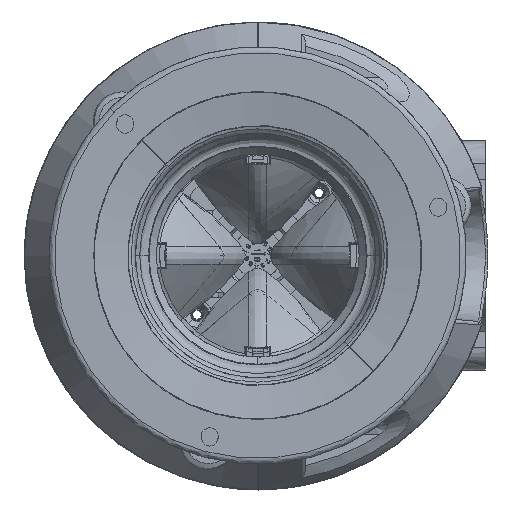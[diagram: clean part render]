
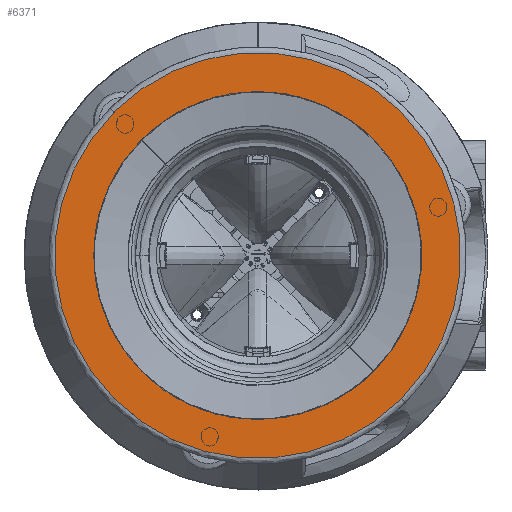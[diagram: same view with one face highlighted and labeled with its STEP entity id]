
A CAD part, top view. The second image highlights one B-rep face of the part: STEP entity #6371.
In plain terms, the highlighted planar face has unit normal (0, 0, 1) as drawn and (0, 1, 0) by its records, which use the part's own axes.
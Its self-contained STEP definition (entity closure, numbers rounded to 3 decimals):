
#518=TRIMMED_CURVE($,#1332,(#120751),(#120752),.T.,.CARTESIAN.);
#519=TRIMMED_CURVE($,#1333,(#120754),(#120755),.T.,.CARTESIAN.);
#523=TRIMMED_CURVE($,#1337,(#120766),(#120767),.T.,.CARTESIAN.);
#524=TRIMMED_CURVE($,#1338,(#120769),(#120770),.T.,.CARTESIAN.);
#551=TRIMMED_CURVE($,#1365,(#120866),(#120867),.T.,.CARTESIAN.);
#552=TRIMMED_CURVE($,#1366,(#120869),(#120870),.T.,.CARTESIAN.);
#555=TRIMMED_CURVE($,#1369,(#120878),(#120879),.T.,.CARTESIAN.);
#556=TRIMMED_CURVE($,#1370,(#120881),(#120882),.T.,.CARTESIAN.);
#1332=CIRCLE('',#59503,46.);
#1333=CIRCLE('',#59504,46.);
#1337=CIRCLE('',#59508,46.);
#1338=CIRCLE('',#59509,46.);
#1365=CIRCLE('',#59536,70.5);
#1366=CIRCLE('',#59537,70.5);
#1369=CIRCLE('',#59540,70.5);
#1370=CIRCLE('',#59541,70.5);
#6371=ADVANCED_FACE('',(#9831,#7230),#55824,.T.);
#7230=FACE_BOUND('',#13272,.T.);
#9831=FACE_OUTER_BOUND('',#13271,.T.);
#13271=EDGE_LOOP('',(#28171,#28172,#28173,#28174));
#13272=EDGE_LOOP('',(#28175,#28176,#28177,#28178));
#28171=ORIENTED_EDGE('',*,*,#39050,.F.);
#28172=ORIENTED_EDGE('',*,*,#39051,.F.);
#28173=ORIENTED_EDGE('',*,*,#39046,.F.);
#28174=ORIENTED_EDGE('',*,*,#39047,.F.);
#28175=ORIENTED_EDGE('',*,*,#39006,.F.);
#28176=ORIENTED_EDGE('',*,*,#39010,.F.);
#28177=ORIENTED_EDGE('',*,*,#39011,.F.);
#28178=ORIENTED_EDGE('',*,*,#39005,.F.);
#39005=EDGE_CURVE('',#52890,#52889,#518,.T.);
#39006=EDGE_CURVE('',#52891,#52890,#519,.T.);
#39010=EDGE_CURVE('',#52893,#52891,#523,.T.);
#39011=EDGE_CURVE('',#52889,#52893,#524,.T.);
#39046=EDGE_CURVE('',#52917,#52918,#551,.T.);
#39047=EDGE_CURVE('',#52919,#52917,#552,.T.);
#39050=EDGE_CURVE('',#52920,#52919,#555,.T.);
#39051=EDGE_CURVE('',#52918,#52920,#556,.T.);
#52889=VERTEX_POINT('',#120701);
#52890=VERTEX_POINT('',#120702);
#52891=VERTEX_POINT('',#120703);
#52893=VERTEX_POINT('',#120705);
#52917=VERTEX_POINT('',#120729);
#52918=VERTEX_POINT('',#120730);
#52919=VERTEX_POINT('',#120731);
#52920=VERTEX_POINT('',#120732);
#55824=PLANE('',#59496);
#59496=AXIS2_PLACEMENT_3D('',#120612,#63108,$);
#59503=AXIS2_PLACEMENT_3D($,#120750,#63119,#63120);
#59504=AXIS2_PLACEMENT_3D($,#120753,#63121,#63122);
#59508=AXIS2_PLACEMENT_3D($,#120765,#63129,#63130);
#59509=AXIS2_PLACEMENT_3D($,#120768,#63131,#63132);
#59536=AXIS2_PLACEMENT_3D($,#120865,#63185,#63186);
#59537=AXIS2_PLACEMENT_3D($,#120868,#63187,#63188);
#59540=AXIS2_PLACEMENT_3D($,#120877,#63193,#63194);
#59541=AXIS2_PLACEMENT_3D($,#120880,#63195,#63196);
#63108=DIRECTION('',(0.,1.,0.));
#63119=DIRECTION('',(0.,1.,0.));
#63120=DIRECTION('',(1.,0.,0.007));
#63121=DIRECTION('',(0.,1.,0.));
#63122=DIRECTION('',(-1.,0.,0.));
#63129=DIRECTION('',(0.,1.,0.));
#63130=DIRECTION('',(-1.,0.,-0.007));
#63131=DIRECTION('',(0.,1.,0.));
#63132=DIRECTION('',(1.,0.,0.));
#63185=DIRECTION('',(0.,-1.,0.));
#63186=DIRECTION('',(-1.,0.,-0.006));
#63187=DIRECTION('',(0.,-1.,0.));
#63188=DIRECTION('',(-1.,0.,0.));
#63193=DIRECTION('',(0.,-1.,0.));
#63194=DIRECTION('',(1.,0.,0.006));
#63195=DIRECTION('',(0.,-1.,0.));
#63196=DIRECTION('',(1.,0.,0.));
#120612=CARTESIAN_POINT('',(84.846,8.,85.107));
#120701=CARTESIAN_POINT('',(46.,8.,0.));
#120702=CARTESIAN_POINT('',(45.999,8.,0.308));
#120703=CARTESIAN_POINT('',(-46.,8.,0.));
#120705=CARTESIAN_POINT('',(-45.999,8.,-0.308));
#120729=CARTESIAN_POINT('',(-70.499,8.,-0.436));
#120730=CARTESIAN_POINT('',(70.5,8.,0.));
#120731=CARTESIAN_POINT('',(-70.5,8.,0.));
#120732=CARTESIAN_POINT('',(70.499,8.,0.436));
#120750=CARTESIAN_POINT('',(0.,8.,0.));
#120751=CARTESIAN_POINT('',(45.999,8.,0.308));
#120752=CARTESIAN_POINT('',(46.,8.,0.));
#120753=CARTESIAN_POINT('',(0.,8.,0.));
#120754=CARTESIAN_POINT('',(-46.,8.,0.));
#120755=CARTESIAN_POINT('',(45.999,8.,0.308));
#120765=CARTESIAN_POINT('',(0.,8.,0.));
#120766=CARTESIAN_POINT('',(-45.999,8.,-0.308));
#120767=CARTESIAN_POINT('',(-46.,8.,0.));
#120768=CARTESIAN_POINT('',(0.,8.,0.));
#120769=CARTESIAN_POINT('',(46.,8.,0.));
#120770=CARTESIAN_POINT('',(-45.999,8.,-0.308));
#120865=CARTESIAN_POINT('',(0.,8.,0.));
#120866=CARTESIAN_POINT('',(-70.499,8.,-0.436));
#120867=CARTESIAN_POINT('',(70.5,8.,0.));
#120868=CARTESIAN_POINT('',(0.,8.,0.));
#120869=CARTESIAN_POINT('',(-70.5,8.,0.));
#120870=CARTESIAN_POINT('',(-70.499,8.,-0.436));
#120877=CARTESIAN_POINT('',(0.,8.,0.));
#120878=CARTESIAN_POINT('',(70.499,8.,0.436));
#120879=CARTESIAN_POINT('',(-70.5,8.,0.));
#120880=CARTESIAN_POINT('',(0.,8.,0.));
#120881=CARTESIAN_POINT('',(70.5,8.,0.));
#120882=CARTESIAN_POINT('',(70.499,8.,0.436));
